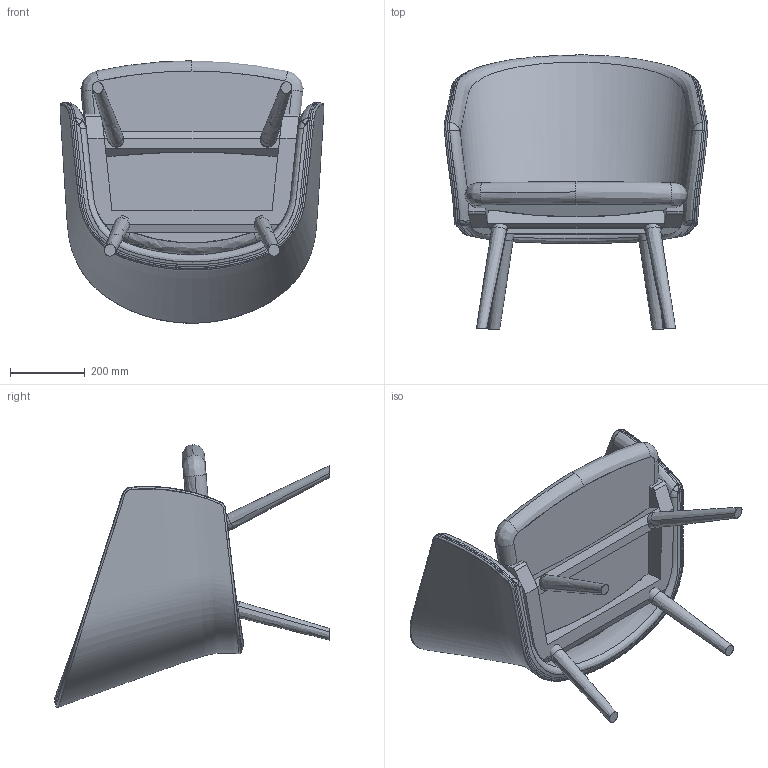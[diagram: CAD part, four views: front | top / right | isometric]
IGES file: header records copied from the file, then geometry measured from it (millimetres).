
Start section: SolidWorks IGES file using analytic representation for surfaces
Global section: file name: C:\Users\David.BDLE\Desktop\407 Saia Lounge Chair_vb_2019-01-21\407 Saia Lounge Chair_vb_cadeirao prmt.IGS; native system: SolidWorks 2016; preprocessor: SolidWorks 2016; author: David; date: 191126.173420; units: millimetre
Bounding box: 707.57 x 735.73 x 703.7 mm (x, y, z)
Surface area: 2838568.7 mm2 (no closed solid volume)
Topology: 0 solids, 0 shells, 155 faces, 3881 edges, 3877 vertices
Faces by surface type: bspline 107, revolution 48
